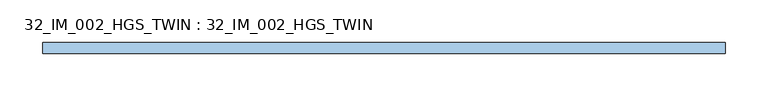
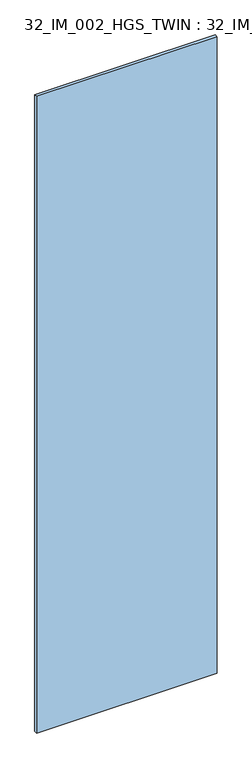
"""IFC4 building model written with IfcOpenShell, lengths in millimetres: window geometry, 32_IM_002_HGS_TWIN : 32_IM_002_HGS_TWIN."""

from ifc_helpers import new_model, si_unit, origin, origin_with_axes, place, context, project, spatial, polyline, outline, extrude, source, transform, mapped, element, save


def window_32_im_002_hgs_twin_32_im_002_hgs_twin_18a0c5fa(model_context):
    return source(origin(), model_context, "Body", "SweptSolid", [
        extrude(outline(polyline([(397.15, -6.4), (-397.15, -6.4), (-397.15, 6.4), (397.15, 6.4), (397.15, -6.4)])), origin_with_axes(), (0.0, 0.0, 1.0), 2956.0),
    ])


if __name__ == "__main__":
    model = new_model("IFC4")
    model_context = context("Model", 3, world=origin())
    ifc_project = project(units=[si_unit("LENGTHUNIT", "METRE", prefix="MILLI")], contexts=[model_context])
    site = spatial("IfcSite", under=ifc_project)
    building = spatial("IfcBuilding", under=site)
    placement = place(None, origin())
    window_32_im_002_hgs_twin_32_im_002_hgs_twin_shape = window_32_im_002_hgs_twin_32_im_002_hgs_twin_18a0c5fa(model_context)
    element("IfcWindow", 1, ObjectType="32_IM_002_HGS_TWIN : 32_IM_002_HGS_TWIN", at=placement, inside=building, context=model_context, shape_type="MappedRepresentation", body=[
        mapped(window_32_im_002_hgs_twin_32_im_002_hgs_twin_shape, transform((0.0, 0.0, 0.0), x_axis=(1.0, 0.0, 0.0), y_axis=(0.0, 1.0, 0.0), z_axis=(0.0, 0.0, 1.0))),
    ])
    save(model, "model.ifc")
